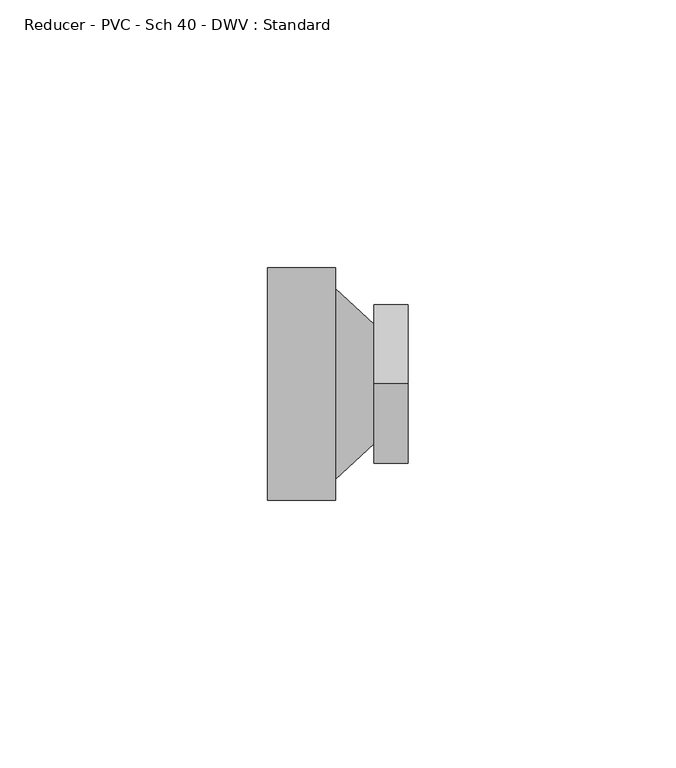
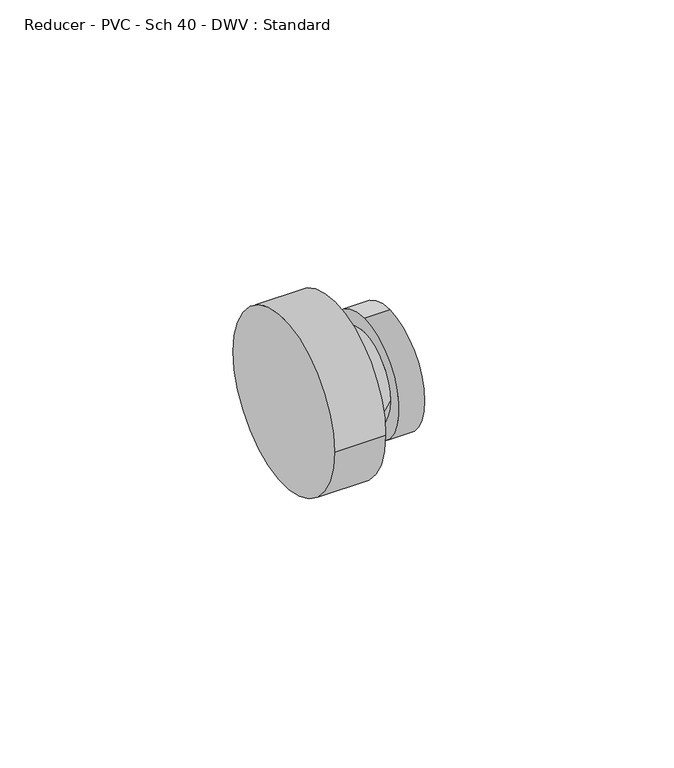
"""IFC4 building model written with IfcOpenShell, lengths in millimetres: pipe fitting geometry, Reducer - PVC - Sch 40 - DWV : Standard."""

import ifcopenshell
import ifcopenshell.guid

model = None  # the IFC model being written
_history = None  # IfcOwnerHistory: only IFC2X3 demands one
_inside = {}  # id of a spatial element -> (the spatial element, [elements in it])
_under = {}  # id of a project, library or spatial element -> (it, [spatial elements below it])
_declared = {}  # id of a project -> (the project, [libraries it declares])
_typed = {}  # id of a type object -> (the type object, [elements of that type])
_made_of = {}  # id of a material, layer set ... -> (it, [elements and type objects made of it])


def new_model(schema):
    """Start an empty IFC model of exactly this schema.

    Asked for "IFC4X3", IfcOpenShell would pick the latest addendum, in which some entities
    have other attributes; the version numbers below select the first issue.
    IFC2X3 requires an IfcOwnerHistory on every rooted entity: one is made here for all.
    """
    global model, _history
    if schema == "IFC4X3":
        model = ifcopenshell.file(schema_version=(4, 3, 0, 0))
    else:
        model = ifcopenshell.file(schema=schema)
    _inside.clear()
    _under.clear()
    _declared.clear()
    _typed.clear()
    _made_of.clear()
    _history = None
    if model.schema == "IFC2X3":
        org = make("IfcOrganization", Name="unknown")
        user = make(
            "IfcPersonAndOrganization",
            ThePerson=make("IfcPerson", FamilyName="unknown"),
            TheOrganization=org,
        )
        app = make(
            "IfcApplication",
            ApplicationDeveloper=org,
            Version="unknown",
            ApplicationFullName="unknown",
            ApplicationIdentifier="unknown",
        )
        _history = make(
            "IfcOwnerHistory",
            OwningUser=user,
            OwningApplication=app,
            ChangeAction="ADDED",
            CreationDate=0,
        )
    return model


def make(cls, **values):
    """One entity of the class cls with the attributes given. An attribute that is None is left unset."""
    return model.create_entity(
        cls, **{name: value for name, value in values.items() if value is not None}
    )


def rooted(cls, **values):
    """An entity with a GlobalId (a new one), such as an element, a storey or a relation."""
    return make(cls, GlobalId=ifcopenshell.guid.new(), OwnerHistory=_history, **values)


def si_unit(unit_type, name, prefix=None):
    """IfcSIUnit, for example si_unit("LENGTHUNIT", "METRE", prefix="MILLI")."""
    return make("IfcSIUnit", UnitType=unit_type, Prefix=prefix, Name=name)


def assignment(units):
    """IfcUnitAssignment: the units of a project."""
    return None if units is None else make("IfcUnitAssignment", Units=units)


def point(xyz):
    """IfcCartesianPoint."""
    return None if xyz is None else make("IfcCartesianPoint", Coordinates=xyz)


def direction(xyz):
    """IfcDirection."""
    return None if xyz is None else make("IfcDirection", DirectionRatios=xyz)


def frame(location, z_axis=None, x_axis=None):
    """IfcAxis2Placement3D, a coordinate frame: its origin and axes. An axis left out is left unset."""
    return make(
        "IfcAxis2Placement3D",
        Location=point(location),
        Axis=direction(z_axis),
        RefDirection=direction(x_axis),
    )


def origin():
    """The frame at (0, 0, 0) with its axes left unset."""
    return frame((0.0, 0.0, 0.0))


def place(relative_to, where):
    """IfcLocalPlacement: puts the frame where relative to a parent placement (None: the world)."""
    return make(
        "IfcLocalPlacement", PlacementRelTo=relative_to, RelativePlacement=where
    )


def context(
    kind, dimensions, precision=None, world=None, true_north=None, identifier=None
):
    """IfcGeometricRepresentationContext, for example the 3D "Model" context."""
    return make(
        "IfcGeometricRepresentationContext",
        ContextIdentifier=identifier,
        ContextType=kind,
        CoordinateSpaceDimension=dimensions,
        Precision=precision,
        WorldCoordinateSystem=world,
        TrueNorth=true_north,
    )


def project(units=None, contexts=None):
    """IfcProject with its units and contexts."""
    return rooted(
        "IfcProject",
        Name="project",
        RepresentationContexts=contexts,
        UnitsInContext=assignment(units),
    )


def spatial(cls, under=None, at=None, **own):
    """A site, building, storey or space (cls), placed at a placement, below another one or the project."""
    s = rooted(cls, ObjectPlacement=at, **own)
    if under is not None:
        _under.setdefault(under.id(), (under, []))[1].append(s)
    return s


def polyline(points):
    """IfcPolyline through the points."""
    return make("IfcPolyline", Points=[point(p) for p in points])


def circle_curve(where, radius):
    """IfcCircle in the frame where."""
    return make("IfcCircle", Position=where, Radius=radius)


def shape(context_of_items, identifier, shape_type, items):
    """IfcShapeRepresentation: the items that make up one representation, for example the "Body"."""
    return make(
        "IfcShapeRepresentation",
        ContextOfItems=context_of_items,
        RepresentationIdentifier=identifier,
        RepresentationType=shape_type,
        Items=items,
    )


def source(mapping_origin, context_of_items, identifier, shape_type, items):
    """IfcRepresentationMap: a shape defined once, which mapped items show again and again."""
    return make(
        "IfcRepresentationMap",
        MappingOrigin=mapping_origin,
        MappedRepresentation=shape(context_of_items, identifier, shape_type, items),
    )


def transform(
    local_origin,
    x_axis=None,
    y_axis=None,
    z_axis=None,
    scale=None,
    scale2=None,
    scale3=None,
    uniform=True,
):
    """IfcCartesianTransformationOperator3D, or its non-uniform kind. x_axis, y_axis, z_axis: its Axis1, 2, 3."""
    if uniform:
        return make(
            "IfcCartesianTransformationOperator3D",
            Axis1=direction(x_axis),
            Axis2=direction(y_axis),
            LocalOrigin=point(local_origin),
            Scale=scale,
            Axis3=direction(z_axis),
        )
    return make(
        "IfcCartesianTransformationOperator3DnonUniform",
        Axis1=direction(x_axis),
        Axis2=direction(y_axis),
        LocalOrigin=point(local_origin),
        Scale=scale,
        Axis3=direction(z_axis),
        Scale2=scale2,
        Scale3=scale3,
    )


def mapped(mapping_source, mapping_target):
    """IfcMappedItem: shows the shape of a source again, moved by a transform."""
    return make(
        "IfcMappedItem", MappingSource=mapping_source, MappingTarget=mapping_target
    )


def made_of(thing, what):
    """Note that an element or type object is made of a material, layer set ...; save() writes the relation."""
    if what is not None:
        _made_of.setdefault(what.id(), (what, []))[1].append(thing)
    return thing


def element(
    cls,
    number,
    at=None,
    inside=None,
    cuts=None,
    type_object=None,
    material=None,
    context=None,
    identifier="Body",
    shape_type=None,
    held_by="IfcProductDefinitionShape",
    body=None,
    shapes=None,
    **own,
):
    """One element of the class cls, such as IfcWall. Its Tag is "e" and its number.

    at: its placement. inside: the storey or other place that contains it. cuts: it is an
    opening in that element (IfcRelVoidsElement). A single representation is given by context,
    identifier, shape_type and body (its items); several are given by shapes. held_by: the class
    of the entity that holds the representations. save() writes the other relations.
    """
    e = rooted(cls, Tag="e%d" % number, ObjectPlacement=at, **own)
    if body is not None:
        shapes = [shape(context, identifier, shape_type, body)]
    if shapes is not None:
        e.Representation = make(held_by, Representations=shapes)
    if inside is not None:
        _inside.setdefault(inside.id(), (inside, []))[1].append(e)
    if cuts is not None:
        rooted(
            "IfcRelVoidsElement", RelatingBuildingElement=cuts, RelatedOpeningElement=e
        )
    if type_object is not None:
        _typed.setdefault(type_object.id(), (type_object, []))[1].append(e)
    return made_of(e, material)


def aggregate(whole, parts):
    """IfcRelAggregates: a whole, such as a stair, and the parts it consists of."""
    return rooted("IfcRelAggregates", RelatingObject=whole, RelatedObjects=parts)


def save(model, path):
    """Write the relations noted so far, then the file.

    IfcRelAggregates (storeys below a building ...), IfcRelContainedInSpatialStructure (elements
    in a storey), IfcRelDefinesByType, IfcRelAssociatesMaterial and IfcRelDeclares: one each for
    every whole, place, type object, material and project.
    """
    for whole, parts in _under.values():
        aggregate(whole, parts)
    for where, things in _inside.values():
        rooted(
            "IfcRelContainedInSpatialStructure",
            RelatedElements=things,
            RelatingStructure=where,
        )
    for kind, things in _typed.values():
        rooted("IfcRelDefinesByType", RelatedObjects=things, RelatingType=kind)
    for what, things in _made_of.values():
        rooted("IfcRelAssociatesMaterial", RelatedObjects=things, RelatingMaterial=what)
    for by, libraries in _declared.values():
        rooted("IfcRelDeclares", RelatingContext=by, RelatedDefinitions=libraries)
    model.write(path)


def plane_surface(at):
    """IfcPlane: the flat surface through the origin of the frame at, square to its z axis."""
    return make("IfcPlane", Position=at)


def cylinder_surface(at, radius):
    """IfcCylindricalSurface: all points at the distance radius from the z axis of the frame at."""
    return make("IfcCylindricalSurface", Position=at, Radius=radius)


def revolved_surface(curve, axis_point, axis_direction):
    """IfcSurfaceOfRevolution: the curve turned about the line through axis_point along axis_direction."""
    return make(
        "IfcSurfaceOfRevolution",
        SweptCurve=make("IfcArbitraryOpenProfileDef", ProfileType="CURVE", Curve=curve),
        AxisPosition=make("IfcAxis1Placement", Location=point(axis_point), Axis=direction(axis_direction)),
    )


def advanced_brep(points, edges, surfaces, faces):
    """IfcAdvancedBrep: a solid bounded by faces that lie on surfaces and meet in shared edges.

    An edge is (start, end): straight between two places in points (the first is 0);
    or (start, end, curve); or (start, end, curve, False) where it runs against its curve.
    A face is (place in surfaces, loops), or (place, loops, False) where it looks against
    its surface's normal. A loop lists edges by number (the first is 1), with a minus sign
    where the edge is run from its end to its start. The first loop is the outer one.
    """
    corners = [point(p) for p in points]
    vertices = [make("IfcVertexPoint", VertexGeometry=c) for c in corners]
    made = []
    for start, end, *more in edges:
        made.append(
            make(
                "IfcEdgeCurve",
                EdgeStart=vertices[start],
                EdgeEnd=vertices[end],
                EdgeGeometry=more[0] if more else make("IfcPolyline", Points=[corners[start], corners[end]]),
                SameSense=more[1] if len(more) > 1 else True,
            )
        )
    hull = []
    for where, loops, *sense in faces:
        bounds = []
        for j, loop in enumerate(loops):
            ring = [make("IfcOrientedEdge", EdgeElement=made[abs(k) - 1], Orientation=k > 0) for k in loop]
            bounds.append(
                make(
                    "IfcFaceOuterBound" if j == 0 else "IfcFaceBound",
                    Bound=make("IfcEdgeLoop", EdgeList=ring),
                    Orientation=True,
                )
            )
        hull.append(make("IfcAdvancedFace", Bounds=bounds, FaceSurface=surfaces[where], SameSense=sense[0] if sense else True))
    return make("IfcAdvancedBrep", Outer=make("IfcClosedShell", CfsFaces=hull))


def reducer_pvc_sch_40_dwv_standard_62d2b996(model_context):
    return source(origin(), model_context, "Body", "AdvancedBrep", [
        advanced_brep(
        [(0.0, 21.7031094, 0.0), (0.0, -21.7031094, 0.0), (12.7, 21.7031094, 0.0), (12.7, -21.7031094, 0.0), (12.7, -17.7720625, 0.0), (12.7, 17.7720625, 0.0), (19.9270938, 11.1680625, 0.0), (19.9270938, -11.1680625, 0.0), (19.9270938, 0.0, 14.8451094), (19.9270938, 0.0, -14.8451094), (26.2770938, 0.0, 14.8451094), (26.2770938, 0.0, -14.8451094)],
        [
            (0, 1, circle_curve(frame((0.0, 0.0, 0.0), z_axis=(-1.0, 0.0, 0.0), x_axis=(0.0, -1.0, 0.0)), 21.7031094)),
            (1, 0, circle_curve(frame((0.0, 0.0, 0.0), z_axis=(-1.0, 0.0, 0.0), x_axis=(0.0, -1.0, 0.0)), 21.7031094)),
            (2, 3, circle_curve(frame((12.7, 0.0, 0.0), z_axis=(1.0, 0.0, 0.0), x_axis=(0.0, -1.0, 0.0)), 21.7031094)),
            (3, 2, circle_curve(frame((12.7, 0.0, 0.0), z_axis=(1.0, 0.0, 0.0), x_axis=(0.0, -1.0, 0.0)), 21.7031094)),
            (4, 5, circle_curve(frame((12.7, 0.0, 0.0), z_axis=(-1.0, 0.0, 0.0), x_axis=(0.0, -1.0, 0.0)), 17.7720625)),
            (5, 4, circle_curve(frame((12.7, 0.0, 0.0), z_axis=(-1.0, 0.0, 0.0), x_axis=(0.0, 1.0, 0.0)), 17.7720625)),
            (1, 3),
            (2, 0),
            (5, 6),
            (6, 7, circle_curve(frame((19.9270938, 0.0, 0.0), z_axis=(-1.0, 0.0, 0.0), x_axis=(0.0, 1.0, 0.0)), 11.1680625)),
            (7, 4),
            (7, 6, circle_curve(frame((19.9270938, 0.0, 0.0), z_axis=(-1.0, 0.0, 0.0), x_axis=(0.0, -1.0, 0.0)), 11.1680625)),
            (8, 9, circle_curve(frame((19.9270938, 0.0, 0.0), z_axis=(-1.0, 0.0, 0.0), x_axis=(0.0, 0.0, -1.0)), 14.8451094)),
            (9, 8, circle_curve(frame((19.9270938, 0.0, 0.0), z_axis=(-1.0, 0.0, 0.0), x_axis=(0.0, 0.0, -1.0)), 14.8451094)),
            (10, 11, circle_curve(frame((26.2770938, 0.0, 0.0), z_axis=(1.0, 0.0, 0.0), x_axis=(0.0, 0.0, -1.0)), 14.8451094)),
            (11, 10, circle_curve(frame((26.2770938, 0.0, 0.0), z_axis=(1.0, 0.0, 0.0), x_axis=(0.0, 0.0, -1.0)), 14.8451094)),
            (9, 11),
            (10, 8),
        ],
        [
            plane_surface(frame((0.0, 0.0, 0.0), z_axis=(-1.0, 0.0, 0.0), x_axis=(0.0, 0.0, 1.0))),
            plane_surface(frame((12.7, 0.0, 0.0), z_axis=(1.0, 0.0, 0.0), x_axis=(0.0, 0.0, 1.0))),
            cylinder_surface(frame((0.0, 0.0, 0.0), z_axis=(-1.0, 0.0, 0.0), x_axis=(0.0, -1.0, 0.0)), 21.7031094),
            revolved_surface(polyline([(19.9270938, -11.16806245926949, 0.0), (12.7, -17.7720625, 0.0)]), (32.1488737, 0.0, 0.0), (-1.0, 0.0, 0.0)),
            revolved_surface(polyline([(19.9270938, 11.16806245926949, 0.0), (12.7, 17.7720625, 0.0)]), (32.1488737, 0.0, 0.0), (-1.0, 0.0, 0.0)),
            plane_surface(frame((19.9270938, 0.0, 0.0), z_axis=(-1.0, 0.0, 0.0), x_axis=(0.0, -1.0, 0.0))),
            plane_surface(frame((26.2770938, 0.0, 0.0), z_axis=(1.0, 0.0, 0.0), x_axis=(0.0, -1.0, 0.0))),
            cylinder_surface(frame((19.9270938, 0.0, 0.0), z_axis=(-1.0, 0.0, 0.0), x_axis=(0.0, 0.0, -1.0)), 14.8451094),
        ],
        [
            (0, [[1, 2]]),
            (1, [[3, 4], [5, 6]]),
            (2, [[7, -3, 8, -2]]),
            (2, [[-8, -4, -7, -1]]),
            (3, [[-6, 9, 10, 11]]),
            (4, [[12, -9, -5, -11]]),
            (5, [[13, 14], [-12, -10]]),
            (6, [[15, 16]]),
            (7, [[17, -15, 18, -14]]),
            (7, [[-18, -16, -17, -13]]),
        ],
    ),
    ])


if __name__ == "__main__":
    model = new_model("IFC4")
    model_context = context("Model", 3, world=origin())
    ifc_project = project(units=[si_unit("LENGTHUNIT", "METRE", prefix="MILLI")], contexts=[model_context])
    site = spatial("IfcSite", under=ifc_project)
    building = spatial("IfcBuilding", under=site)
    placement = place(None, origin())
    reducer_pvc_sch_40_dwv_standard_shape = reducer_pvc_sch_40_dwv_standard_62d2b996(model_context)
    element("IfcPipeFitting", 1, ObjectType="Reducer - PVC - Sch 40 - DWV : Standard", at=placement, inside=building, context=model_context, shape_type="MappedRepresentation", body=[
        mapped(reducer_pvc_sch_40_dwv_standard_shape, transform((0.0, 0.0, 0.0), x_axis=(1.0, 0.0, 0.0), y_axis=(0.0, 1.0, 0.0), z_axis=(0.0, 0.0, 1.0))),
    ])
    save(model, "model.ifc")
